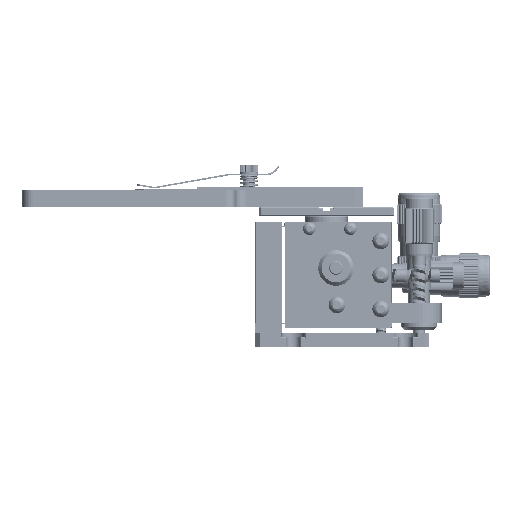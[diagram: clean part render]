
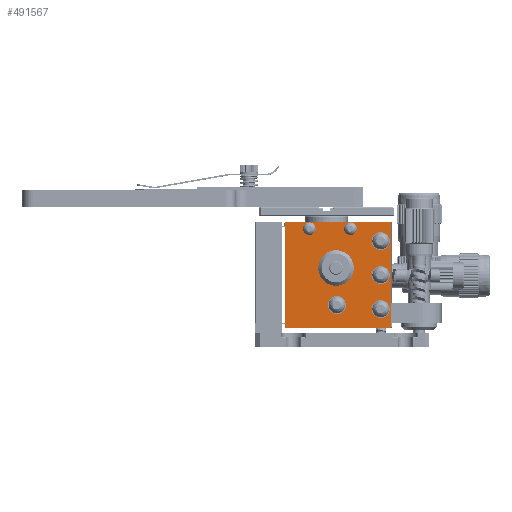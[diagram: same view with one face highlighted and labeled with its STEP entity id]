
A CAD part, left-side view. The second image highlights one B-rep face of the part: STEP entity #491567.
In plain terms, the highlighted planar face has unit normal (-1, 0, 0) as drawn and (0, 0, 1) by its records, which use the part's own axes.
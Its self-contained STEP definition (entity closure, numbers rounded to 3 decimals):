
#490256=DIRECTION('',(-1.,0.,0.));
#490257=VECTOR('',#490256,47.5);
#490258=CARTESIAN_POINT('',(47.5,0.3,29.85));
#490259=LINE('',#490258,#490257);
#490350=DIRECTION('',(0.,-1.,0.));
#490351=VECTOR('',#490350,4.3);
#490352=CARTESIAN_POINT('',(47.5,0.3,29.85));
#490353=LINE('',#490352,#490351);
#490354=DIRECTION('',(0.,-1.,0.));
#490355=VECTOR('',#490354,42.9);
#490356=CARTESIAN_POINT('',(47.5,-4.,29.85));
#490357=LINE('',#490356,#490355);
#490358=CARTESIAN_POINT('',(44.4,-28.8,29.85));
#490359=DIRECTION('',(0.,0.,1.));
#490360=DIRECTION('',(0.,1.,0.));
#490361=AXIS2_PLACEMENT_3D('',#490358,#490359,#490360);
#490363=CARTESIAN_POINT('',(44.4,-28.8,29.85));
#490364=DIRECTION('',(0.,0.,1.));
#490365=DIRECTION('',(0.,-1.,0.));
#490366=AXIS2_PLACEMENT_3D('',#490363,#490364,#490365);
#490368=CARTESIAN_POINT('',(44.405,-10.5,29.85));
#490369=DIRECTION('',(0.,0.,1.));
#490370=DIRECTION('',(0.,1.,0.));
#490371=AXIS2_PLACEMENT_3D('',#490368,#490369,#490370);
#490373=CARTESIAN_POINT('',(44.405,-10.5,29.85));
#490374=DIRECTION('',(0.,0.,1.));
#490375=DIRECTION('',(0.,-1.,0.));
#490376=AXIS2_PLACEMENT_3D('',#490373,#490374,#490375);
#490378=CARTESIAN_POINT('',(26.912,-22.4,29.85));
#490379=DIRECTION('',(0.,0.,1.));
#490380=DIRECTION('',(0.,1.,0.));
#490381=AXIS2_PLACEMENT_3D('',#490378,#490379,#490380);
#490383=CARTESIAN_POINT('',(26.912,-22.4,29.85));
#490384=DIRECTION('',(0.,0.,1.));
#490385=DIRECTION('',(0.,-1.,0.));
#490386=AXIS2_PLACEMENT_3D('',#490383,#490384,#490385);
#490388=CARTESIAN_POINT('',(38.9,-42.3,29.85));
#490389=DIRECTION('',(0.,0.,1.));
#490390=DIRECTION('',(0.,-1.,0.));
#490391=AXIS2_PLACEMENT_3D('',#490388,#490389,#490390);
#490393=CARTESIAN_POINT('',(38.9,-42.3,29.85));
#490394=DIRECTION('',(0.,0.,1.));
#490395=DIRECTION('',(0.,1.,0.));
#490396=AXIS2_PLACEMENT_3D('',#490393,#490394,#490395);
#490398=CARTESIAN_POINT('',(23.75,-42.3,29.85));
#490399=DIRECTION('',(0.,0.,1.));
#490400=DIRECTION('',(0.,-1.,0.));
#490401=AXIS2_PLACEMENT_3D('',#490398,#490399,#490400);
#490403=CARTESIAN_POINT('',(23.75,-42.3,29.85));
#490404=DIRECTION('',(0.,0.,1.));
#490405=DIRECTION('',(0.,1.,0.));
#490406=AXIS2_PLACEMENT_3D('',#490403,#490404,#490405);
#490408=CARTESIAN_POINT('',(8.6,-42.3,29.85));
#490409=DIRECTION('',(0.,0.,1.));
#490410=DIRECTION('',(0.,-1.,0.));
#490411=AXIS2_PLACEMENT_3D('',#490408,#490409,#490410);
#490413=CARTESIAN_POINT('',(8.6,-42.3,29.85));
#490414=DIRECTION('',(0.,0.,1.));
#490415=DIRECTION('',(0.,1.,0.));
#490416=AXIS2_PLACEMENT_3D('',#490413,#490414,#490415);
#490418=CARTESIAN_POINT('',(10.412,-22.8,29.85));
#490419=DIRECTION('',(0.,0.,1.));
#490420=DIRECTION('',(0.,-1.,0.));
#490421=AXIS2_PLACEMENT_3D('',#490418,#490419,#490420);
#490423=CARTESIAN_POINT('',(10.412,-22.8,29.85));
#490424=DIRECTION('',(0.,0.,1.));
#490425=DIRECTION('',(0.,1.,0.));
#490426=AXIS2_PLACEMENT_3D('',#490423,#490424,#490425);
#490440=DIRECTION('',(0.,-1.,0.));
#490441=VECTOR('',#490440,47.2);
#490442=CARTESIAN_POINT('',(0.,0.3,29.85));
#490443=LINE('',#490442,#490441);
#490526=DIRECTION('',(1.,0.,0.));
#490527=VECTOR('',#490526,47.5);
#490528=CARTESIAN_POINT('',(0.,-46.9,29.85));
#490529=LINE('',#490528,#490527);
#490994=CARTESIAN_POINT('',(47.5,0.3,29.85));
#490995=VERTEX_POINT('',#490994);
#490996=CARTESIAN_POINT('',(0.,0.3,29.85));
#490997=VERTEX_POINT('',#490996);
#491018=CARTESIAN_POINT('',(47.5,-4.,29.85));
#491020=VERTEX_POINT('',#491018);
#491022=CARTESIAN_POINT('',(47.5,-46.9,29.85));
#491023=VERTEX_POINT('',#491022);
#491026=CARTESIAN_POINT('',(0.,-46.9,29.85));
#491027=VERTEX_POINT('',#491026);
#491028=CARTESIAN_POINT('',(44.4,-27.2,29.85));
#491029=CARTESIAN_POINT('',(44.4,-30.4,29.85));
#491030=VERTEX_POINT('',#491028);
#491031=VERTEX_POINT('',#491029);
#491032=CARTESIAN_POINT('',(44.405,-8.9,29.85));
#491033=CARTESIAN_POINT('',(44.405,-12.1,29.85));
#491034=VERTEX_POINT('',#491032);
#491035=VERTEX_POINT('',#491033);
#491036=CARTESIAN_POINT('',(26.912,-15.2,29.85));
#491037=CARTESIAN_POINT('',(26.912,-29.6,29.85));
#491038=VERTEX_POINT('',#491036);
#491039=VERTEX_POINT('',#491037);
#491040=CARTESIAN_POINT('',(38.9,-46.3,29.85));
#491041=CARTESIAN_POINT('',(38.9,-38.3,29.85));
#491042=VERTEX_POINT('',#491040);
#491043=VERTEX_POINT('',#491041);
#491044=CARTESIAN_POINT('',(23.75,-46.3,29.85));
#491045=CARTESIAN_POINT('',(23.75,-38.3,29.85));
#491046=VERTEX_POINT('',#491044);
#491047=VERTEX_POINT('',#491045);
#491048=CARTESIAN_POINT('',(8.6,-46.3,29.85));
#491049=CARTESIAN_POINT('',(8.6,-38.3,29.85));
#491050=VERTEX_POINT('',#491048);
#491051=VERTEX_POINT('',#491049);
#491052=CARTESIAN_POINT('',(10.412,-26.8,29.85));
#491053=CARTESIAN_POINT('',(10.412,-18.8,29.85));
#491054=VERTEX_POINT('',#491052);
#491055=VERTEX_POINT('',#491053);
#491511=CARTESIAN_POINT('',(0.,0.,29.85));
#491512=DIRECTION('',(0.,0.,1.));
#491513=DIRECTION('',(0.,-1.,0.));
#491514=AXIS2_PLACEMENT_3D('',#491511,#491512,#491513);
#491515=PLANE('',#491514);
#491517=ORIENTED_EDGE('',*,*,#491516,.F.);
#491518=ORIENTED_EDGE('',*,*,#491384,.F.);
#491519=ORIENTED_EDGE('',*,*,#491486,.T.);
#491520=ORIENTED_EDGE('',*,*,#491501,.T.);
#491522=ORIENTED_EDGE('',*,*,#491521,.F.);
#491523=EDGE_LOOP('',(#491517,#491518,#491519,#491520,#491522));
#491524=FACE_OUTER_BOUND('',#491523,.F.);
#491526=ORIENTED_EDGE('',*,*,#491525,.T.);
#491528=ORIENTED_EDGE('',*,*,#491527,.T.);
#491529=EDGE_LOOP('',(#491526,#491528));
#491530=FACE_BOUND('',#491529,.F.);
#491532=ORIENTED_EDGE('',*,*,#491531,.T.);
#491534=ORIENTED_EDGE('',*,*,#491533,.T.);
#491535=EDGE_LOOP('',(#491532,#491534));
#491536=FACE_BOUND('',#491535,.F.);
#491538=ORIENTED_EDGE('',*,*,#491537,.T.);
#491540=ORIENTED_EDGE('',*,*,#491539,.T.);
#491541=EDGE_LOOP('',(#491538,#491540));
#491542=FACE_BOUND('',#491541,.F.);
#491544=ORIENTED_EDGE('',*,*,#491543,.T.);
#491546=ORIENTED_EDGE('',*,*,#491545,.T.);
#491547=EDGE_LOOP('',(#491544,#491546));
#491548=FACE_BOUND('',#491547,.F.);
#491550=ORIENTED_EDGE('',*,*,#491549,.T.);
#491552=ORIENTED_EDGE('',*,*,#491551,.T.);
#491553=EDGE_LOOP('',(#491550,#491552));
#491554=FACE_BOUND('',#491553,.F.);
#491556=ORIENTED_EDGE('',*,*,#491555,.T.);
#491558=ORIENTED_EDGE('',*,*,#491557,.T.);
#491559=EDGE_LOOP('',(#491556,#491558));
#491560=FACE_BOUND('',#491559,.F.);
#491562=ORIENTED_EDGE('',*,*,#491561,.T.);
#491564=ORIENTED_EDGE('',*,*,#491563,.T.);
#491565=EDGE_LOOP('',(#491562,#491564));
#491566=FACE_BOUND('',#491565,.F.);
#491567=ADVANCED_FACE('',(#491524,#491530,#491536,#491542,#491548,#491554,
#491560,#491566),#491515,.T.);
#490362=CIRCLE('',#490361,1.6);
#490367=CIRCLE('',#490366,1.6);
#490372=CIRCLE('',#490371,1.6);
#490377=CIRCLE('',#490376,1.6);
#490382=CIRCLE('',#490381,7.2);
#490387=CIRCLE('',#490386,7.2);
#490392=CIRCLE('',#490391,4.);
#490397=CIRCLE('',#490396,4.);
#490402=CIRCLE('',#490401,4.);
#490407=CIRCLE('',#490406,4.);
#490412=CIRCLE('',#490411,4.);
#490417=CIRCLE('',#490416,4.);
#490422=CIRCLE('',#490421,4.);
#490427=CIRCLE('',#490426,4.);
#491384=EDGE_CURVE('',#490995,#490997,#490259,.T.);
#491486=EDGE_CURVE('',#490995,#491020,#490353,.T.);
#491501=EDGE_CURVE('',#491020,#491023,#490357,.T.);
#491516=EDGE_CURVE('',#490997,#491027,#490443,.T.);
#491521=EDGE_CURVE('',#491027,#491023,#490529,.T.);
#491525=EDGE_CURVE('',#491030,#491031,#490362,.T.);
#491527=EDGE_CURVE('',#491031,#491030,#490367,.T.);
#491531=EDGE_CURVE('',#491034,#491035,#490372,.T.);
#491533=EDGE_CURVE('',#491035,#491034,#490377,.T.);
#491537=EDGE_CURVE('',#491038,#491039,#490382,.T.);
#491539=EDGE_CURVE('',#491039,#491038,#490387,.T.);
#491543=EDGE_CURVE('',#491042,#491043,#490392,.T.);
#491545=EDGE_CURVE('',#491043,#491042,#490397,.T.);
#491549=EDGE_CURVE('',#491046,#491047,#490402,.T.);
#491551=EDGE_CURVE('',#491047,#491046,#490407,.T.);
#491555=EDGE_CURVE('',#491050,#491051,#490412,.T.);
#491557=EDGE_CURVE('',#491051,#491050,#490417,.T.);
#491561=EDGE_CURVE('',#491054,#491055,#490422,.T.);
#491563=EDGE_CURVE('',#491055,#491054,#490427,.T.);
